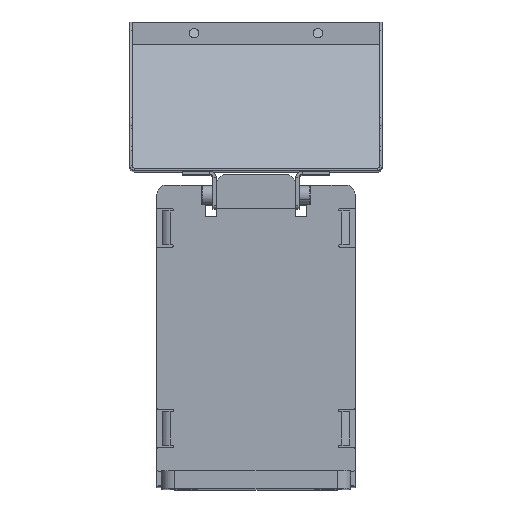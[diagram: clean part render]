
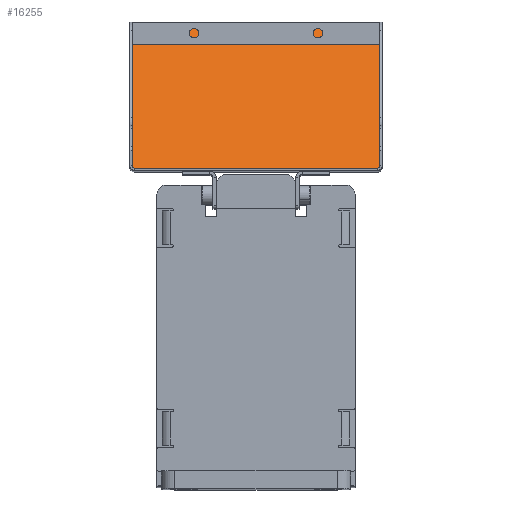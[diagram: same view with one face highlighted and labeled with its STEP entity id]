
A CAD part, top view. The second image highlights one B-rep face of the part: STEP entity #16255.
In plain terms, the highlighted planar face has unit normal (0, 0.5, 0.866) as drawn and (0, 0.5, -0.866) by its records, which use the part's own axes.
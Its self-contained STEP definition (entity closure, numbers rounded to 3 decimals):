
#657 = CARTESIAN_POINT ( 'NONE',  ( -54., 0.5, 445.866 ) ) ;
#697 = EDGE_CURVE ( 'NONE', #15535, #29078, #30572, .T. ) ;
#1158 = DIRECTION ( 'NONE',  ( 1., 0., 0. ) ) ;
#1291 = EDGE_CURVE ( 'NONE', #15535, #32634, #5996, .T. ) ;
#1478 = CARTESIAN_POINT ( 'NONE',  ( -54.849, 0.622, 445.937 ) ) ;
#2387 = DIRECTION ( 'NONE',  ( 0., 0.5, -0.866 ) ) ;
#2424 = ORIENTED_EDGE ( 'NONE', *, *, #29087, .F. ) ;
#3496 = CARTESIAN_POINT ( 'NONE',  ( 54.783, 0.5, 445.866 ) ) ;
#4153 = CARTESIAN_POINT ( 'NONE',  ( 54.805, 0.541, 445.89 ) ) ;
#5393 = CARTESIAN_POINT ( 'NONE',  ( -54.929, 65., 483.105 ) ) ;
#5547 = CARTESIAN_POINT ( 'NONE',  ( -54.929, 0.5, 445.866 ) ) ;
#5725 = EDGE_LOOP ( 'NONE', ( #18747, #8939, #2424, #23390, #16057, #22282 ) ) ;
#5903 = VECTOR ( 'NONE', #15643, 1000. ) ;
#5996 = LINE ( 'NONE', #657, #22146 ) ;
#6658 = CARTESIAN_POINT ( 'NONE',  ( 54.927, 0.958, 446.131 ) ) ;
#7005 = VERTEX_POINT ( 'NONE', #12579 ) ;
#7199 = EDGE_CURVE ( 'NONE', #29078, #7900, #20169, .T. ) ;
#7900 = VERTEX_POINT ( 'NONE', #5393 ) ;
#8683 = LINE ( 'NONE', #27866, #24079 ) ;
#8939 = ORIENTED_EDGE ( 'NONE', *, *, #18243, .F. ) ;
#9104 = EDGE_CURVE ( 'NONE', #21893, #7900, #26901, .T. ) ;
#9203 = AXIS2_PLACEMENT_3D ( 'NONE', #30148, #2387, #12000 ) ;
#9294 = CARTESIAN_POINT ( 'NONE',  ( 54.894, 0.748, 446.009 ) ) ;
#10044 = DIRECTION ( 'NONE',  ( 0., 0.866, 0.5 ) ) ;
#11926 = CARTESIAN_POINT ( 'NONE',  ( -54.927, 0.958, 446.131 ) ) ;
#12000 = DIRECTION ( 'NONE',  ( 0., 0.866, 0.5 ) ) ;
#12089 = CARTESIAN_POINT ( 'NONE',  ( -54.805, 0.541, 445.89 ) ) ;
#12579 = CARTESIAN_POINT ( 'NONE',  ( 54.929, 1., 446.155 ) ) ;
#14241 = CARTESIAN_POINT ( 'NONE',  ( 54.849, 0.622, 445.937 ) ) ;
#15535 = VERTEX_POINT ( 'NONE', #20145 ) ;
#15643 = DIRECTION ( 'NONE',  ( 0., 0.866, 0.5 ) ) ;
#16057 = ORIENTED_EDGE ( 'NONE', *, *, #697, .T. ) ;
#16255 = ADVANCED_FACE ( 'NONE', ( #32161 ), #27822, .T. ) ;
#16579 = CARTESIAN_POINT ( 'NONE',  ( 54.924, 0.874, 446.082 ) ) ;
#16744 = CARTESIAN_POINT ( 'NONE',  ( -54.929, 1., 446.155 ) ) ;
#17233 = CARTESIAN_POINT ( 'NONE',  ( -54., 65., 483.105 ) ) ;
#18243 = EDGE_CURVE ( 'NONE', #7005, #21893, #8683, .T. ) ;
#18747 = ORIENTED_EDGE ( 'NONE', *, *, #9104, .F. ) ;
#20145 = CARTESIAN_POINT ( 'NONE',  ( -54.783, 0.5, 445.866 ) ) ;
#20169 = LINE ( 'NONE', #5547, #5903 ) ;
#21450 = CARTESIAN_POINT ( 'NONE',  ( -54.929, 1., 446.155 ) ) ;
#21893 = VERTEX_POINT ( 'NONE', #26602 ) ;
#21944 = CARTESIAN_POINT ( 'NONE',  ( 54.929, 1., 446.155 ) ) ;
#22146 = VECTOR ( 'NONE', #1158, 1000. ) ;
#22282 = ORIENTED_EDGE ( 'NONE', *, *, #7199, .T. ) ;
#23390 = ORIENTED_EDGE ( 'NONE', *, *, #1291, .F. ) ;
#24079 = VECTOR ( 'NONE', #10044, 1000. ) ;
#24093 = VECTOR ( 'NONE', #26740, 1000. ) ;
#25888 = CARTESIAN_POINT ( 'NONE',  ( 54.783, 0.5, 445.866 ) ) ;
#26602 = CARTESIAN_POINT ( 'NONE',  ( 54.929, 65., 483.105 ) ) ;
#26740 = DIRECTION ( 'NONE',  ( -1., 0., 0. ) ) ;
#26901 = LINE ( 'NONE', #17233, #24093 ) ;
#27075 = CARTESIAN_POINT ( 'NONE',  ( -54.894, 0.748, 446.009 ) ) ;
#27822 = PLANE ( 'NONE',  #9203 ) ;
#27866 = CARTESIAN_POINT ( 'NONE',  ( 54.929, 0.5, 445.866 ) ) ;
#29078 = VERTEX_POINT ( 'NONE', #21450 ) ;
#29087 = EDGE_CURVE ( 'NONE', #32634, #7005, #29498, .T. ) ;
#29498 = B_SPLINE_CURVE_WITH_KNOTS ( 'NONE', 3,
 ( #3496, #4153, #14241, #9294, #16579, #6658, #21944 ),
 .UNSPECIFIED., .F., .F.,
 ( 4, 1, 1, 1, 4 ),
 ( 0., 0.262, 0.514, 0.759, 1. ),
 .UNSPECIFIED. ) ;
#30148 = CARTESIAN_POINT ( 'NONE',  ( 0., -192.691, 334.327 ) ) ;
#30572 = B_SPLINE_CURVE_WITH_KNOTS ( 'NONE', 3,
 ( #32080, #12089, #1478, #27075, #32408, #11926, #16744 ),
 .UNSPECIFIED., .F., .F.,
 ( 4, 1, 1, 1, 4 ),
 ( 0., 0.262, 0.514, 0.759, 1. ),
 .UNSPECIFIED. ) ;
#32080 = CARTESIAN_POINT ( 'NONE',  ( -54.783, 0.5, 445.866 ) ) ;
#32161 = FACE_OUTER_BOUND ( 'NONE', #5725, .T. ) ;
#32408 = CARTESIAN_POINT ( 'NONE',  ( -54.924, 0.874, 446.082 ) ) ;
#32634 = VERTEX_POINT ( 'NONE', #25888 ) ;
